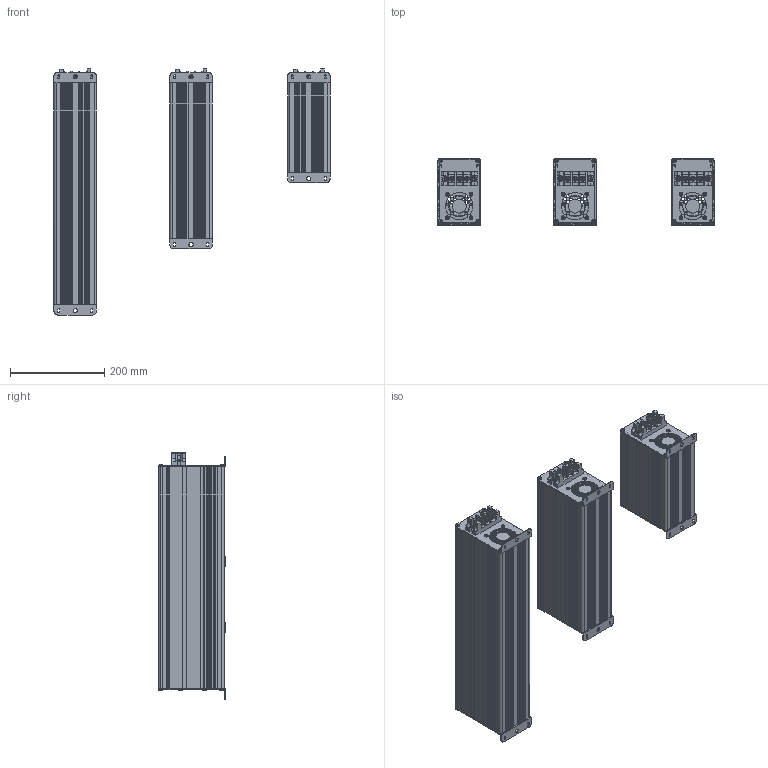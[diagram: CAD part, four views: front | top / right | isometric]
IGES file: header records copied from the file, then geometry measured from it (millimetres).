
Bounding box: 585.19 x 142 x 521.5 mm (x, y, z)
Volume: 1517342.9 mm3; surface area: 1235822.8 mm2
Topology: 78 solids, 78 shells, 3009 faces, 8412 edges, 5670 vertices
Faces by surface type: bspline 3009
